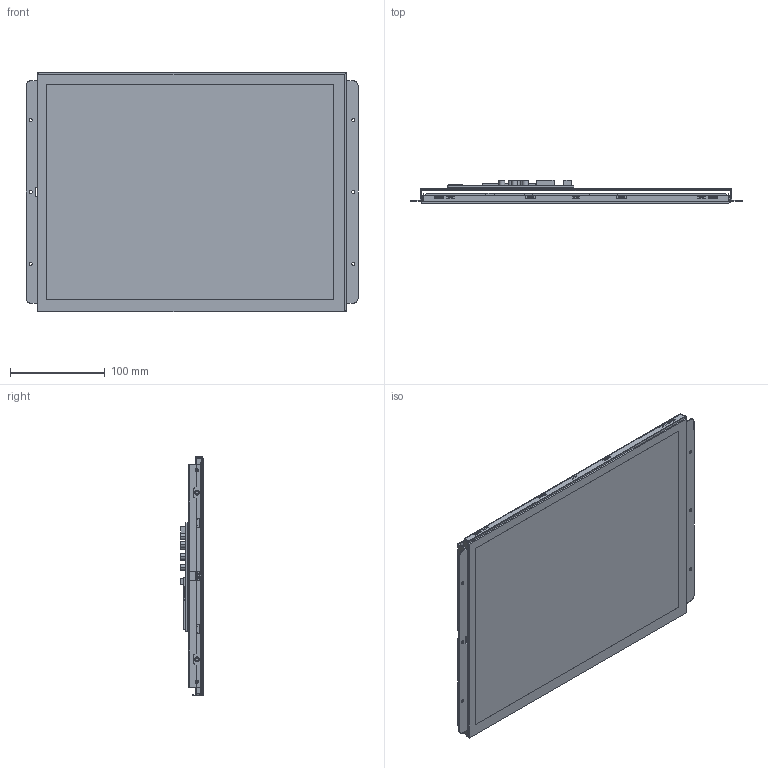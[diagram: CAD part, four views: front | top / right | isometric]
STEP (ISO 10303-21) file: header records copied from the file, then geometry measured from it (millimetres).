
FILE_DESCRIPTION((''),'2;1');
FILE_NAME('3D-DMG10768K150-03WTR','2022-02-23T',('Administrator'),(''),'PRO/ENGINEER BY PARAMETRIC TECHNOLOGY CORPORATION, 2011310','PRO/ENGINEER BY PARAMETRIC TECHNOLOGY CORPORATION, 2011310','');
FILE_SCHEMA(('CONFIG_CONTROL_DESIGN','SHAPE_APPEARANCE_LAYERS_GROUPS'));
Length unit declared in the file: millimetre
Products named in the file (1): 3D-DMG10768K150-03WTR
Bounding box: 351 x 24.3 x 253.5 mm (x, y, z)
Volume: 419181.2 mm3; surface area: 758109.9 mm2
Topology: 3 solids, 5 shells, 1808 faces, 5042 edges, 3242 vertices
Faces by surface type: plane 1319, cylinder 406, torus 47, sphere 20, cone 12, bspline 4
Entity records: 59515 total; most frequent: CARTESIAN_POINT 10786, ORIENTED_EDGE 10054, DIRECTION 9363, EDGE_CURVE 5027, VECTOR 4087, LINE 4087, VERTEX_POINT 3242, AXIS2_PLACEMENT_3D 2638
